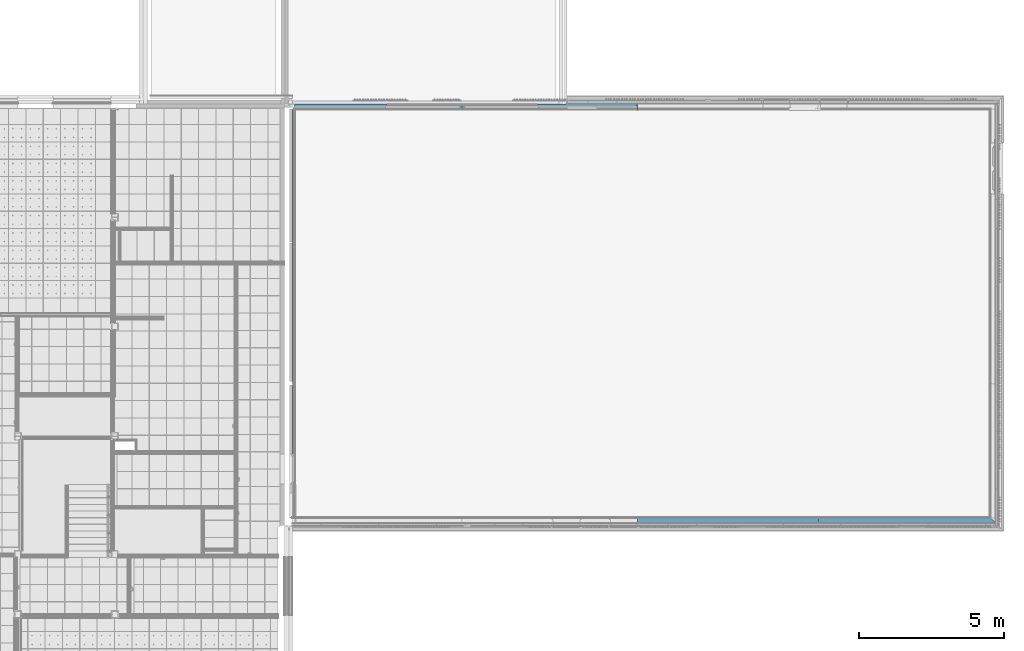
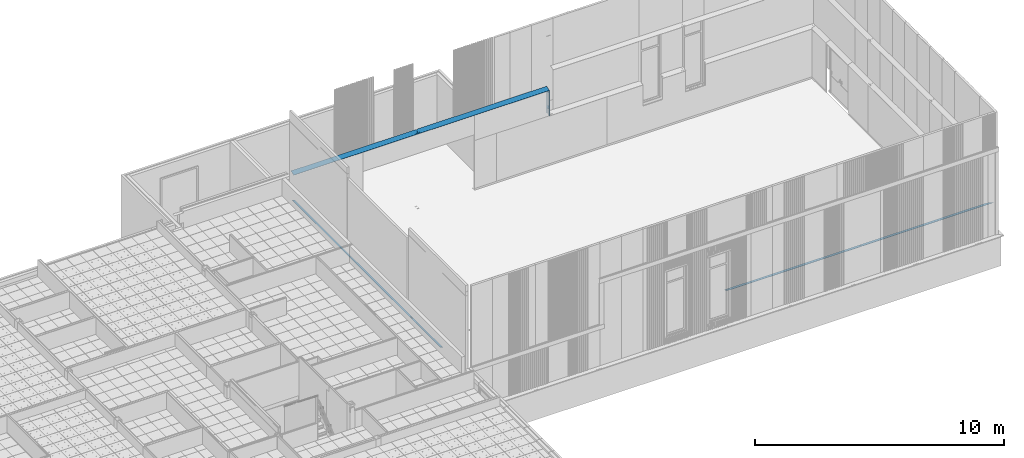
# One storey, part 39 of 338: 4 beams.
"""IFC2X3 building model written with IfcOpenShell, lengths in millimetres."""

import ifcopenshell
import ifcopenshell.guid

model = None  # the IFC model being written
_history = None  # IfcOwnerHistory: only IFC2X3 demands one
_inside = {}  # id of a spatial element -> (the spatial element, [elements in it])
_under = {}  # id of a project, library or spatial element -> (it, [spatial elements below it])
_declared = {}  # id of a project -> (the project, [libraries it declares])
_typed = {}  # id of a type object -> (the type object, [elements of that type])
_made_of = {}  # id of a material, layer set ... -> (it, [elements and type objects made of it])


def new_model(schema):
    """Start an empty IFC model of exactly this schema.

    Asked for "IFC4X3", IfcOpenShell would pick the latest addendum, in which some entities
    have other attributes; the version numbers below select the first issue.
    IFC2X3 requires an IfcOwnerHistory on every rooted entity: one is made here for all.
    """
    global model, _history
    if schema == "IFC4X3":
        model = ifcopenshell.file(schema_version=(4, 3, 0, 0))
    else:
        model = ifcopenshell.file(schema=schema)
    _inside.clear()
    _under.clear()
    _declared.clear()
    _typed.clear()
    _made_of.clear()
    _history = None
    if model.schema == "IFC2X3":
        org = make("IfcOrganization", Name="unknown")
        user = make(
            "IfcPersonAndOrganization",
            ThePerson=make("IfcPerson", FamilyName="unknown"),
            TheOrganization=org,
        )
        app = make(
            "IfcApplication",
            ApplicationDeveloper=org,
            Version="unknown",
            ApplicationFullName="unknown",
            ApplicationIdentifier="unknown",
        )
        _history = make(
            "IfcOwnerHistory",
            OwningUser=user,
            OwningApplication=app,
            ChangeAction="ADDED",
            CreationDate=0,
        )
    return model


def make(cls, **values):
    """One entity of the class cls with the attributes given. An attribute that is None is left unset."""
    return model.create_entity(
        cls, **{name: value for name, value in values.items() if value is not None}
    )


def entity(cls, *values):
    """Any entity or typed value of the class cls, its attributes in the order of the schema. None: left unset."""
    e = model.create_entity(cls)
    for i, value in enumerate(values):
        if value is not None:
            e[i] = value
    return e


def rooted(cls, **values):
    """An entity with a GlobalId (a new one), such as an element, a storey or a relation."""
    return make(cls, GlobalId=ifcopenshell.guid.new(), OwnerHistory=_history, **values)


def si_unit(unit_type, name, prefix=None):
    """IfcSIUnit, for example si_unit("LENGTHUNIT", "METRE", prefix="MILLI")."""
    return make("IfcSIUnit", UnitType=unit_type, Prefix=prefix, Name=name)


def converted_unit(unit_type, name, factor, base, dimensions=None, offset=None):
    """IfcConversionBasedUnit, such as the inch: factor (a typed value) times the base unit."""
    return make(
        "IfcConversionBasedUnit"
        if offset is None
        else "IfcConversionBasedUnitWithOffset",
        ConversionOffset=offset,
        Dimensions=None
        if dimensions is None
        else entity("IfcDimensionalExponents", *dimensions),
        UnitType=unit_type,
        Name=name,
        ConversionFactor=make(
            "IfcMeasureWithUnit", ValueComponent=factor, UnitComponent=base
        ),
    )


def derived_unit(unit_type, elements):
    """IfcDerivedUnit: a product of units, each with its exponent."""
    return make(
        "IfcDerivedUnit",
        Elements=[
            make("IfcDerivedUnitElement", Unit=unit, Exponent=power)
            for unit, power in elements
        ],
        UnitType=unit_type,
    )


def money_unit(currency):
    """IfcMonetaryUnit."""
    return make("IfcMonetaryUnit", Currency=currency)


def assignment(units):
    """IfcUnitAssignment: the units of a project."""
    return None if units is None else make("IfcUnitAssignment", Units=units)


def point(xyz):
    """IfcCartesianPoint."""
    return None if xyz is None else make("IfcCartesianPoint", Coordinates=xyz)


def direction(xyz):
    """IfcDirection."""
    return None if xyz is None else make("IfcDirection", DirectionRatios=xyz)


def frame(location, z_axis=None, x_axis=None):
    """IfcAxis2Placement3D, a coordinate frame: its origin and axes. An axis left out is left unset."""
    return make(
        "IfcAxis2Placement3D",
        Location=point(location),
        Axis=direction(z_axis),
        RefDirection=direction(x_axis),
    )


def origin_with_axes():
    """The frame at (0, 0, 0) with the z axis (0, 0, 1) and the x axis (1, 0, 0) written out."""
    return frame((0.0, 0.0, 0.0), z_axis=(0.0, 0.0, 1.0), x_axis=(1.0, 0.0, 0.0))


def place(relative_to, where):
    """IfcLocalPlacement: puts the frame where relative to a parent placement (None: the world)."""
    return make(
        "IfcLocalPlacement", PlacementRelTo=relative_to, RelativePlacement=where
    )


def context(
    kind, dimensions, precision=None, world=None, true_north=None, identifier=None
):
    """IfcGeometricRepresentationContext, for example the 3D "Model" context."""
    return make(
        "IfcGeometricRepresentationContext",
        ContextIdentifier=identifier,
        ContextType=kind,
        CoordinateSpaceDimension=dimensions,
        Precision=precision,
        WorldCoordinateSystem=world,
        TrueNorth=true_north,
    )


def subcontext(parent, identifier, kind, view, scale=None):
    """IfcGeometricRepresentationSubContext, for example "Body" below "Model"."""
    return make(
        "IfcGeometricRepresentationSubContext",
        ContextIdentifier=identifier,
        ContextType=kind,
        ParentContext=parent,
        TargetScale=scale,
        TargetView=view,
    )


def project(units=None, contexts=None):
    """IfcProject with its units and contexts."""
    return rooted(
        "IfcProject",
        Name="project",
        RepresentationContexts=contexts,
        UnitsInContext=assignment(units),
    )


def spatial(cls, under=None, at=None, **own):
    """A site, building, storey or space (cls), placed at a placement, below another one or the project."""
    s = rooted(cls, ObjectPlacement=at, **own)
    if under is not None:
        _under.setdefault(under.id(), (under, []))[1].append(s)
    return s


def faces_of(points, faces, orient=None, outer=None):
    """IfcFace entities. A face is a list of loops; a loop is a list of indices into points, from 0.

    orient and outer hold one flag for each loop. By default every Orientation is true, the
    first loop of a face is its IfcFaceOuterBound and the others are IfcFaceBound.
    """
    made = []
    for i, loops in enumerate(faces):
        bounds = []
        for j, loop in enumerate(loops):
            is_outer = j == 0 if outer is None else outer[i][j]
            bounds.append(
                make(
                    "IfcFaceOuterBound" if is_outer else "IfcFaceBound",
                    Bound=make("IfcPolyLoop", Polygon=[points[k] for k in loop]),
                    Orientation=True if orient is None else orient[i][j],
                )
            )
        made.append(make("IfcFace", Bounds=bounds))
    return made


def faceted_brep(points, faces, orient=None, outer=None, voids=None):
    """IfcFacetedBrep: a solid bounded by flat faces; with voids (closed shells), ...WithVoids."""
    shared = [point(p) for p in points]
    hull = make("IfcClosedShell", CfsFaces=faces_of(shared, faces, orient, outer))
    if voids is None:
        return make("IfcFacetedBrep", Outer=hull)
    return make(
        "IfcFacetedBrepWithVoids",
        Outer=hull,
        Voids=[
            make(cls, CfsFaces=faces_of(shared, fs, o, b)) for cls, fs, o, b in voids
        ],
    )


def shape(context_of_items, identifier, shape_type, items):
    """IfcShapeRepresentation: the items that make up one representation, for example the "Body"."""
    return make(
        "IfcShapeRepresentation",
        ContextOfItems=context_of_items,
        RepresentationIdentifier=identifier,
        RepresentationType=shape_type,
        Items=items,
    )


def material(Name=None, Category=None):
    """IfcMaterial."""
    return make("IfcMaterial", Name=Name, Category=Category)


def made_of(thing, what):
    """Note that an element or type object is made of a material, layer set ...; save() writes the relation."""
    if what is not None:
        _made_of.setdefault(what.id(), (what, []))[1].append(thing)
    return thing


def type_object(cls, material=None, **own):
    """A type object (cls), such as IfcWallType, which elements share."""
    return made_of(rooted(cls, **own), material)


def element(
    cls,
    number,
    at=None,
    inside=None,
    cuts=None,
    type_object=None,
    material=None,
    context=None,
    identifier="Body",
    shape_type=None,
    held_by="IfcProductDefinitionShape",
    body=None,
    shapes=None,
    **own,
):
    """One element of the class cls, such as IfcWall. Its Tag is "e" and its number.

    at: its placement. inside: the storey or other place that contains it. cuts: it is an
    opening in that element (IfcRelVoidsElement). A single representation is given by context,
    identifier, shape_type and body (its items); several are given by shapes. held_by: the class
    of the entity that holds the representations. save() writes the other relations.
    """
    e = rooted(cls, Tag="e%d" % number, ObjectPlacement=at, **own)
    if body is not None:
        shapes = [shape(context, identifier, shape_type, body)]
    if shapes is not None:
        e.Representation = make(held_by, Representations=shapes)
    if inside is not None:
        _inside.setdefault(inside.id(), (inside, []))[1].append(e)
    if cuts is not None:
        rooted(
            "IfcRelVoidsElement", RelatingBuildingElement=cuts, RelatedOpeningElement=e
        )
    if type_object is not None:
        _typed.setdefault(type_object.id(), (type_object, []))[1].append(e)
    return made_of(e, material)


def aggregate(whole, parts):
    """IfcRelAggregates: a whole, such as a stair, and the parts it consists of."""
    return rooted("IfcRelAggregates", RelatingObject=whole, RelatedObjects=parts)


def save(model, path):
    """Write the relations noted so far, then the file.

    IfcRelAggregates (storeys below a building ...), IfcRelContainedInSpatialStructure (elements
    in a storey), IfcRelDefinesByType, IfcRelAssociatesMaterial and IfcRelDeclares: one each for
    every whole, place, type object, material and project.
    """
    for whole, parts in _under.values():
        aggregate(whole, parts)
    for where, things in _inside.values():
        rooted(
            "IfcRelContainedInSpatialStructure",
            RelatedElements=things,
            RelatingStructure=where,
        )
    for kind, things in _typed.values():
        rooted("IfcRelDefinesByType", RelatedObjects=things, RelatingType=kind)
    for what, things in _made_of.values():
        rooted("IfcRelAssociatesMaterial", RelatedObjects=things, RelatingMaterial=what)
    for by, libraries in _declared.values():
        rooted("IfcRelDeclares", RelatingContext=by, RelatedDefinitions=libraries)
    model.write(path)


model = new_model("IFC2X3")

# Units and contexts
model_context = context("Model", 3, precision=0.01, world=origin_with_axes(), true_north=direction((0.0, 1.0)))
plan_context = context("Plan", 3, precision=0.01, world=origin_with_axes(), true_north=direction((0.0, 1.0)))
body_context = subcontext(model_context, "Body", "Model", "MODEL_VIEW")
ifc_project = project(units=[si_unit("LENGTHUNIT", "METRE", prefix="MILLI"), si_unit("AREAUNIT", "SQUARE_METRE"), si_unit("VOLUMEUNIT", "CUBIC_METRE"), converted_unit("PLANEANGLEUNIT", "DEGREE", entity("IfcPlaneAngleMeasure", 0.0174532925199), si_unit("PLANEANGLEUNIT", "RADIAN"), dimensions=[0, 0, 0, 0, 0, 0, 0]), money_unit("EUR"), converted_unit("TIMEUNIT", "Year", entity("IfcTimeMeasure", 31556926.0), si_unit("TIMEUNIT", "SECOND"), dimensions=[0, 0, 1, 0, 0, 0, 0]), si_unit("MASSUNIT", "GRAM", prefix="KILO"), si_unit("THERMODYNAMICTEMPERATUREUNIT", "DEGREE_CELSIUS"), si_unit("LUMINOUSINTENSITYUNIT", "LUMEN"), si_unit("ENERGYUNIT", "JOULE", prefix="MEGA"), derived_unit("THERMALCONDUCTANCEUNIT", [(si_unit("POWERUNIT", "WATT"), 1), (si_unit("LENGTHUNIT", "METRE"), -1), (si_unit("THERMODYNAMICTEMPERATUREUNIT", "KELVIN"), -1)]), derived_unit("SPECIFICHEATCAPACITYUNIT", [(si_unit("ENERGYUNIT", "JOULE"), 1), (si_unit("MASSUNIT", "GRAM", prefix="KILO"), -1), (si_unit("THERMODYNAMICTEMPERATUREUNIT", "KELVIN"), -1)]), derived_unit("MASSDENSITYUNIT", [(si_unit("MASSUNIT", "GRAM", prefix="KILO"), 1), (si_unit("VOLUMEUNIT", "CUBIC_METRE"), -1)])], contexts=[model_context, plan_context])

# Site, building, storey
site_placement = place(None, origin_with_axes())
site = spatial("IfcSite", under=ifc_project, at=site_placement, Name="Fortuinstraat Woensdrecht", CompositionType="ELEMENT")
building_placement = place(site_placement, origin_with_axes())
building = spatial("IfcBuilding", under=site, at=building_placement, Name="IKC Fortuna", CompositionType="ELEMENT")
storey_placement = place(building_placement, origin_with_axes())
storey = spatial("IfcBuildingStorey", under=building, at=storey_placement, Name="00 begane grond", CompositionType="ELEMENT", Elevation=0.0)

# Beams
ifc_material = material(Name="Hout - Multiplex")
beam_type_1 = type_object("IfcBeamType", Name="Hout - Multiplex 233 x 12", PredefinedType="BEAM")
beam_1_placement = place(storey_placement, frame((59433.4270571, 20996.2966282, 2516.10771999), z_axis=(0.0, 0.0, 1.0), x_axis=(0.0, 1.0, 0.0)))
element("IfcBeam", 1, at=beam_1_placement, inside=storey, type_object=beam_type_1, material=ifc_material, Name="28_Balk_UNP203", ObjectType="BEAM", context=body_context, shape_type="Brep", body=[
    faceted_brep([(11.5096189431, 12310.4999999, 8.58097456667), (16.9999999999, 12305.0096189, 6.58263928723), (24.4999999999, 12302.9999999, 3.85286253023), (146.5, 12302.9999999, -40.5515060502), (154.0, 12305.0096189, -43.2812828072), (159.490381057, 12310.4999999, -45.2796180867), (161.5, 12317.9999999, -46.0110595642), (161.5, 12389.9999999, -46.0110595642), (9.49999999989, 12389.9999999, 9.31241604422), (9.49999999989, 12317.9999999, 9.31241604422), (16.9999999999, 12305.0096189, -6.18749398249), (11.5096189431, 12310.4999999, -4.18915870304), (24.4999999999, 12302.9999999, -8.91727073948), (146.5, 12302.9999999, -53.32163932), (154.0, 12305.0096189, -56.051416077), (159.490381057, 12310.4999999, -58.0497513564), (161.5, 12317.9999999, -58.781192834), (161.5, 12389.9999999, -58.781192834), (9.49999999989, 12389.9999999, -3.45771722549), (9.49999999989, 12317.9999999, -3.45771722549)], [[[0, 1, 2, 3, 4, 5, 6, 7, 8, 9]], [[10, 1, 0, 11]], [[12, 2, 1, 10]], [[13, 3, 2, 12]], [[14, 4, 3, 13]], [[15, 5, 4, 14]], [[16, 6, 5, 15]], [[17, 7, 6, 16]], [[17, 18, 8, 7]], [[19, 9, 8, 18]], [[11, 0, 9, 19]], [[11, 19, 18, 17, 16, 15, 14, 13, 12, 10]]]),
    faceted_brep([(161.5, 161.496242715, -46.0110595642), (93.0037572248, 92.9999999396, -21.080466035), (93.0037572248, 92.9999999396, -33.8505993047), (161.5, 161.496242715, -58.781192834), (11.5096189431, 100.49999994, 8.58097456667), (16.9999999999, 95.0096188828, 6.58263928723), (24.4999999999, 92.9999999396, 3.85286253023), (161.5, 179.99999994, -46.0110595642), (171.0, 179.99999994, -49.4687767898), (171.0, 170.996242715, -49.4687767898), (222.605421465, 222.60166418, -68.2516141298), (222.605421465, 12389.9999999, -68.2516141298), (171.0, 12389.9999999, -49.4687767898), (171.0, 12209.9999999, -49.4687767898), (161.5, 12209.9999999, -46.0110595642), (161.5, 12281.9999999, -46.0110595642), (159.490381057, 12289.4999999, -45.2796180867), (154.0, 12294.990381, -43.2812828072), (146.5, 12296.9999999, -40.5515060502), (24.4999999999, 12296.9999999, 3.85286253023), (16.9999999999, 12294.990381, 6.58263928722), (11.5096189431, 12289.4999999, 8.58097456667), (9.49999999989, 12281.9999999, 9.31241604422), (9.49999999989, 12209.9999999, 9.31241604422), (4.10424171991, 12209.9999999, 11.2763114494), (4.10424171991, 6239.99999994, 11.2763114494), (9.49999999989, 6239.99999994, 9.31241604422), (9.49999999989, 6167.99999994, 9.31241604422), (11.5096189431, 6160.49999994, 8.58097456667), (16.9999999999, 6155.00961888, 6.58263928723), (24.4999999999, 6152.99999994, 3.85286253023), (146.5, 6152.99999994, -40.5515060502), (154.0, 6155.00961888, -43.2812828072), (159.490381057, 6160.49999994, -45.2796180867), (161.5, 6167.99999994, -46.0110595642), (161.5, 6239.99999994, -46.0110595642), (171.0, 6239.99999994, -49.4687767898), (171.0, 6059.99999994, -49.4687767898), (161.5, 6059.99999994, -46.0110595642), (161.5, 6131.99999994, -46.0110595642), (159.490381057, 6139.49999994, -45.2796180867), (154.0, 6144.990381, -43.2812828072), (146.5, 6146.99999994, -40.5515060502), (24.4999999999, 6146.99999994, 3.85286253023), (16.9999999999, 6144.990381, 6.58263928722), (11.5096189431, 6139.49999994, 8.58097456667), (9.49999999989, 6131.99999994, 9.31241604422), (9.49999999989, 6059.99999994, 9.31241604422), (4.10424171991, 6059.99999994, 11.2763114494), (4.10424171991, 3730.31119187, 11.2763114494), (6.00000002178, 3730.9546269, 10.5863118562), (6.00000002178, 3648.91497923, 10.5863118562), (4.10424171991, 3648.2715442, 11.2763114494), (4.10424171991, 2591.72845563, 11.2763114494), (6.00000002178, 2591.0850206, 10.5863118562), (6.00000002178, 2509.04537294, 10.5863118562), (4.10424171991, 2509.68880797, 11.2763114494), (4.10424171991, 179.99999994, 11.2763114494), (9.49999999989, 179.99999994, 9.31241604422), (9.49999999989, 107.99999994, 9.31241604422), (24.4999999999, 92.9999999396, -8.91727073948), (9.49999999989, 107.99999994, -3.45771722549), (9.49999999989, 179.99999994, -3.45771722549), (-1.06581410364e-10, 179.99999994, 0.0), (2.1778134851e-08, 2499.17347742, 0.0), (6.00000002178, 2497.13703101, -2.18382141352), (6.00000002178, 2579.17667868, -2.18382141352), (2.1778134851e-08, 2581.21312509, 0.0), (2.1778134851e-08, 3658.78687474, 0.0), (6.00000002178, 3660.82332116, -2.18382141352), (6.00000002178, 3742.86296882, -2.18382141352), (2.1778134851e-08, 3740.82652241, 0.0), (-1.06581410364e-10, 6059.99999994, 0.0), (9.49999999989, 6059.99999994, -3.45771722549), (9.49999999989, 6131.99999994, -3.45771722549), (11.5096189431, 6139.49999994, -4.18915870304), (16.9999999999, 6144.990381, -6.18749398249), (24.4999999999, 6146.99999994, -8.91727073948), (146.5, 6146.99999994, -53.32163932), (154.0, 6144.990381, -56.051416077), (159.490381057, 6139.49999994, -58.0497513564), (161.5, 6131.99999994, -58.781192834), (161.5, 6059.99999994, -58.781192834), (171.0, 6059.99999994, -62.2389100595), (171.0, 6239.99999994, -62.2389100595), (161.5, 6239.99999994, -58.781192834), (161.5, 6167.99999994, -58.781192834), (159.490381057, 6160.49999994, -58.0497513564), (154.0, 6155.00961888, -56.051416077), (146.5, 6152.99999994, -53.32163932), (24.4999999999, 6152.99999994, -8.91727073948), (16.9999999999, 6155.00961888, -6.18749398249), (11.5096189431, 6160.49999994, -4.18915870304), (9.49999999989, 6167.99999994, -3.45771722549), (9.49999999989, 6239.99999994, -3.45771722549), (-1.06581410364e-10, 6239.99999994, 0.0), (-1.06581410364e-10, 12209.9999999, 0.0), (9.49999999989, 12209.9999999, -3.45771722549), (9.49999999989, 12281.9999999, -3.45771722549), (11.5096189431, 12289.4999999, -4.18915870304), (16.9999999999, 12294.990381, -6.18749398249), (24.4999999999, 12296.9999999, -8.91727073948), (146.5, 12296.9999999, -53.32163932), (154.0, 12294.990381, -56.051416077), (159.490381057, 12289.4999999, -58.0497513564), (161.5, 12281.9999999, -58.781192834), (161.5, 12209.9999999, -58.781192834), (171.0, 12209.9999999, -62.2389100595), (171.0, 12389.9999999, -62.2389100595), (218.501179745, 12389.9999999, -79.5279255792), (218.501179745, 218.49742246, -79.5279255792), (171.0, 170.996242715, -62.2389100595), (171.0, 179.99999994, -62.2389100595), (161.5, 179.99999994, -58.781192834), (16.9999999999, 95.0096188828, -6.18749398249), (11.5096189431, 100.49999994, -4.18915870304)], [[[0, 1, 2, 3]], [[4, 5, 6, 1, 0, 7, 8, 9, 10, 11, 12, 13, 14, 15, 16, 17, 18, 19, 20, 21, 22, 23, 24, 25, 26, 27, 28, 29, 30, 31, 32, 33, 34, 35, 36, 37, 38, 39, 40, 41, 42, 43, 44, 45, 46, 47, 48, 49, 50, 51, 52, 53, 54, 55, 56, 57, 58, 59]], [[60, 2, 1, 6]], [[61, 62, 63, 64, 65, 66, 67, 68, 69, 70, 71, 72, 73, 74, 75, 76, 77, 78, 79, 80, 81, 82, 83, 84, 85, 86, 87, 88, 89, 90, 91, 92, 93, 94, 95, 96, 97, 98, 99, 100, 101, 102, 103, 104, 105, 106, 107, 108, 109, 110, 111, 112, 113, 3, 2, 60, 114, 115]], [[113, 7, 0, 3]], [[114, 5, 4, 115]], [[60, 6, 5, 114]], [[112, 8, 7, 113]], [[112, 111, 9, 8]], [[10, 9, 111, 110]], [[109, 11, 10, 110]], [[109, 108, 12, 11]], [[107, 13, 12, 108]], [[106, 14, 13, 107]], [[105, 15, 14, 106]], [[104, 16, 15, 105]], [[103, 17, 16, 104]], [[102, 18, 17, 103]], [[101, 19, 18, 102]], [[100, 20, 19, 101]], [[99, 21, 20, 100]], [[98, 22, 21, 99]], [[97, 23, 22, 98]], [[96, 24, 23, 97]], [[96, 95, 25, 24]], [[94, 26, 25, 95]], [[93, 27, 26, 94]], [[92, 28, 27, 93]], [[91, 29, 28, 92]], [[90, 30, 29, 91]], [[89, 31, 30, 90]], [[88, 32, 31, 89]], [[87, 33, 32, 88]], [[86, 34, 33, 87]], [[85, 35, 34, 86]], [[84, 36, 35, 85]], [[83, 37, 36, 84]], [[82, 38, 37, 83]], [[81, 39, 38, 82]], [[80, 40, 39, 81]], [[79, 41, 40, 80]], [[78, 42, 41, 79]], [[77, 43, 42, 78]], [[76, 44, 43, 77]], [[75, 45, 44, 76]], [[74, 46, 45, 75]], [[73, 47, 46, 74]], [[72, 48, 47, 73]], [[49, 48, 72, 71]], [[71, 70, 50, 49]], [[70, 69, 51, 50]], [[51, 69, 68, 52]], [[67, 53, 52, 68]], [[66, 54, 53, 67]], [[65, 55, 54, 66]], [[64, 56, 55, 65]], [[64, 63, 57, 56]], [[62, 58, 57, 63]], [[61, 59, 58, 62]], [[115, 4, 59, 61]]]),
    faceted_brep([(16.9999999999, 84.9903809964, 6.58263928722), (11.5096189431, 79.4999999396, 8.58097456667), (9.49999999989, 71.9999999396, 9.31241604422), (9.49999999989, 9.4962427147, 9.31241604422), (87.0037572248, 86.9999999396, -18.8966446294), (24.4999999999, 86.9999999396, 3.85286253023), (11.5096189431, 79.4999999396, -4.18915870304), (16.9999999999, 84.9903809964, -6.18749398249), (9.49999999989, 71.9999999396, -3.45771722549), (9.49999999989, 9.4962427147, -3.45771722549), (87.0037572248, 86.9999999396, -31.6667778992), (24.4999999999, 86.9999999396, -8.91727073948)], [[[0, 1, 2, 3, 4, 5]], [[6, 1, 0, 7]], [[8, 2, 1, 6]], [[8, 9, 3, 2]], [[9, 10, 4, 3]], [[11, 5, 4, 10]], [[7, 0, 5, 11]], [[7, 11, 10, 9, 8, 6]]]),
])
beam_2_placement = place(storey_placement, frame((35179.4270571, 35496.2832774, 3766.10771999), z_axis=(0.0, 0.0, 1.0), x_axis=(0.0, -1.0, 0.0)))
element("IfcBeam", 2, at=beam_2_placement, inside=storey, type_object=beam_type_1, material=ifc_material, Name="28_Balk_UNP203", ObjectType="BEAM", context=body_context, shape_type="Brep", body=[
    faceted_brep([(11.4962681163, 5814.5, -4.18429939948), (9.48664917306, 5822.0, -3.45285792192), (9.48664917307, 5894.0, -3.45285792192), (0.0, 5894.0, 0.0), (0.0, 11864.0000427, 0.0), (210.962707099, 11863.9975576, -76.7841459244), (210.962707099, 11851.9975427, -76.7841459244), (216.776093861, 11851.9975427, -78.9000456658), (216.776093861, 11863.9975576, -78.9000456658), (218.501179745, 11864.0000427, -79.5279255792), (218.501179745, 0.0, -79.5279255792), (0.0, 0.0, 0.0), (0.0, 5714.0, 0.0), (9.48664917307, 5714.0, -3.45285792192), (9.48664917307, 5786.0, -3.45285792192), (11.4962681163, 5793.5, -4.18429939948), (16.9866491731, 5798.99038106, -6.18263467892), (24.4866491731, 5801.0, -8.91241143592), (146.486649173, 5801.0, -53.3167800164), (153.986649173, 5798.99038106, -56.0465567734), (159.47703023, 5793.5, -58.0448920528), (161.486649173, 5786.0, -58.7763335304), (161.486649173, 5714.0, -58.7763335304), (170.986649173, 5714.0, -62.2340507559), (170.986649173, 5894.0, -62.2340507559), (161.486649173, 5894.0, -58.7763335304), (161.486649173, 5822.0, -58.7763335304), (159.47703023, 5814.5, -58.0448920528), (153.986649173, 5809.00961894, -56.0465567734), (146.486649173, 5807.0, -53.3167800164), (24.4866491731, 5807.0, -8.91241143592), (16.9866491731, 5809.00961894, -6.18263467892), (11.4962681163, 5814.5, 8.58583387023), (9.48664917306, 5822.0, 9.31727534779), (9.48664917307, 5894.0, 9.31727534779), (4.10424171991, 5894.0, 11.2763114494), (4.10424171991, 11864.0000427, 11.2763114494), (222.605421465, 11864.0000427, -68.2516141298), (216.776093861, 11863.9975576, -77.8092028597), (216.776093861, 11851.9975427, -77.8092028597), (222.605421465, 0.0, -68.2516141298), (4.10424171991, 0.0, 11.2763114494), (4.10424171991, 5714.0, 11.2763114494), (9.48664917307, 5714.0, 9.31727534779), (9.48664917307, 5786.0, 9.31727534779), (11.4962681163, 5793.5, 8.58583387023), (16.9866491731, 5798.99038106, 6.58749859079), (24.4866491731, 5801.0, 3.85772183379), (146.486649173, 5801.0, -40.5466467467), (153.986649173, 5798.99038106, -43.2764235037), (159.47703023, 5793.5, -45.2747587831), (161.486649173, 5786.0, -46.0062002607), (161.486649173, 5714.0, -46.0062002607), (170.986649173, 5714.0, -49.4639174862), (170.986649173, 5894.0, -49.4639174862), (161.486649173, 5894.0, -46.0062002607), (161.486649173, 5822.0, -46.0062002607), (159.47703023, 5814.5, -45.2747587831), (153.986649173, 5809.00961894, -43.2764235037), (146.486649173, 5807.0, -40.5466467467), (24.4866491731, 5807.0, 3.85772183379), (16.9866491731, 5809.00961894, 6.58749859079)], [[[0, 1, 2, 3, 4, 5, 6, 7, 8, 9, 10, 11, 12, 13, 14, 15, 16, 17, 18, 19, 20, 21, 22, 23, 24, 25, 26, 27, 28, 29, 30, 31]], [[0, 32, 33, 1]], [[1, 33, 34, 2]], [[34, 35, 3, 2]], [[4, 3, 35, 36]], [[37, 9, 8, 38, 5, 4, 36]], [[38, 39, 6, 5]], [[6, 39, 7]], [[7, 39, 38, 8]], [[37, 40, 10, 9]], [[10, 40, 41, 11]], [[41, 42, 12, 11]], [[43, 13, 12, 42]], [[13, 43, 44, 14]], [[14, 44, 45, 15]], [[15, 45, 46, 16]], [[16, 46, 47, 17]], [[17, 47, 48, 18]], [[18, 48, 49, 19]], [[19, 49, 50, 20]], [[20, 50, 51, 21]], [[21, 51, 52, 22]], [[22, 52, 53, 23]], [[23, 53, 54, 24]], [[24, 54, 55, 25]], [[25, 55, 56, 26]], [[26, 56, 57, 27]], [[27, 57, 58, 28]], [[28, 58, 59, 29]], [[29, 59, 60, 30]], [[30, 60, 61, 31]], [[31, 61, 32, 0]], [[44, 43, 42, 41, 40, 37, 36, 35, 34, 33, 32, 61, 60, 59, 58, 57, 56, 55, 54, 53, 52, 51, 50, 49, 48, 47, 46, 45]]]),
])
beam_type_2 = type_object("IfcBeamType", Name="Hout - Multiplex 120 x 12", PredefinedType="BEAM")
beam_3_placement = place(storey_placement, frame((35113.4270841, 23384.5135484, 2478.0975514), z_axis=(0.0, 0.0, 1.0), x_axis=(1.0, 0.0, 0.0)))
element("IfcBeam", 3, at=beam_3_placement, inside=storey, type_object=beam_type_2, material=ifc_material, Name="28_Balk_UNP204", ObjectType="BEAM", context=body_context, shape_type="Brep", body=[
    faceted_brep([(49.9903540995, 7322.28307988, -5.42486762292), (51.9999730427, 7329.78307988, -6.15630910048), (51.9999730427, 7401.78307988, -6.15630910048), (61.4999730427, 7401.78307988, -9.614026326), (61.4999730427, 7221.78307988, -9.614026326), (51.9999730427, 7221.78307988, -6.15630910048), (51.9999730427, 7293.78307988, -6.15630910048), (49.9903540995, 7301.28307988, -5.42486762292), (44.4999730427, 7306.77346094, -3.42653234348), (36.9999730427, 7308.78307988, -0.696755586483), (4.10424171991, 7308.78307988, 11.2763114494), (4.10424171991, 2414.78307988, 11.2763114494), (36.9999730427, 2414.78307988, -0.696755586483), (44.4999730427, 2416.79269883, -3.42653234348), (49.9903540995, 2422.28307988, -5.42486762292), (51.9999730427, 2429.78307988, -6.15630910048), (51.9999730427, 2501.78307988, -6.15630910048), (61.4999730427, 2501.78307988, -9.614026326), (61.4999730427, 2321.78307988, -9.614026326), (51.9999730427, 2321.78307988, -6.15630910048), (51.9999730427, 2393.78307988, -6.15630910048), (49.9903540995, 2401.28307988, -5.42486762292), (44.4999730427, 2406.77346094, -3.42653234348), (36.9999730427, 2408.78307988, -0.696755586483), (4.10424171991, 2408.78307988, 11.2763114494), (4.10424171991, 0.0, 11.2763114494), (116.867356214, 0.0, -29.7661057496), (116.867356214, 11907.7830799, -29.7661057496), (4.10424171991, 11907.7830799, 11.2763114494), (4.10424171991, 7314.78307988, 11.2763114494), (36.9999730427, 7314.78307988, -0.696755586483), (44.4999730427, 7316.79269883, -3.42653234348), (51.9999730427, 7329.78307988, -18.9264423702), (49.9903540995, 7322.28307988, -18.1950008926), (51.9999730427, 7401.78307988, -18.9264423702), (61.4999730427, 7401.78307988, -22.3841595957), (61.4999730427, 7221.78307988, -22.3841595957), (51.9999730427, 7221.78307988, -18.9264423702), (51.9999730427, 7293.78307988, -18.9264423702), (49.9903540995, 7301.28307988, -18.1950008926), (44.4999730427, 7306.77346094, -16.1966656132), (36.9999730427, 7308.78307988, -13.4668888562), (0.0, 7308.78307988, 0.0), (0.0, 2414.78307988, 0.0), (36.9999730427, 2414.78307988, -13.4668888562), (44.4999730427, 2416.79269883, -16.1966656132), (49.9903540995, 2422.28307988, -18.1950008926), (51.9999730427, 2429.78307988, -18.9264423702), (51.9999730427, 2501.78307988, -18.9264423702), (61.4999730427, 2501.78307988, -22.3841595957), (61.4999730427, 2321.78307988, -22.3841595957), (51.9999730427, 2321.78307988, -18.9264423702), (51.9999730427, 2393.78307988, -18.9264423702), (49.9903540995, 2401.28307988, -18.1950008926), (44.4999730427, 2406.77346094, -16.1966656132), (36.9999730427, 2408.78307988, -13.4668888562), (0.0, 2408.78307988, 0.0), (0.0, 0.0, 0.0), (112.763114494, 0.0, -41.0424171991), (112.763114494, 11907.7830799, -41.0424171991), (0.0, 11907.7830799, 0.0), (0.0, 7314.78307988, 0.0), (36.9999730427, 7314.78307988, -13.4668888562), (44.4999730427, 7316.79269883, -16.1966656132)], [[[0, 1, 2, 3, 4, 5, 6, 7, 8, 9, 10, 11, 12, 13, 14, 15, 16, 17, 18, 19, 20, 21, 22, 23, 24, 25, 26, 27, 28, 29, 30, 31]], [[32, 1, 0, 33]], [[34, 2, 1, 32]], [[35, 3, 2, 34]], [[36, 4, 3, 35]], [[37, 5, 4, 36]], [[38, 6, 5, 37]], [[39, 7, 6, 38]], [[40, 8, 7, 39]], [[41, 9, 8, 40]], [[42, 10, 9, 41]], [[11, 10, 42, 43]], [[44, 12, 11, 43]], [[45, 13, 12, 44]], [[46, 14, 13, 45]], [[47, 15, 14, 46]], [[48, 16, 15, 47]], [[49, 17, 16, 48]], [[50, 18, 17, 49]], [[51, 19, 18, 50]], [[52, 20, 19, 51]], [[53, 21, 20, 52]], [[54, 22, 21, 53]], [[55, 23, 22, 54]], [[56, 24, 23, 55]], [[25, 24, 56, 57]], [[26, 25, 57, 58]], [[26, 58, 59, 27]], [[27, 59, 60, 28]], [[60, 61, 29, 28]], [[62, 30, 29, 61]], [[63, 31, 30, 62]], [[33, 0, 31, 63]], [[63, 62, 61, 60, 59, 58, 57, 56, 55, 54, 53, 52, 51, 50, 49, 48, 47, 46, 45, 44, 43, 42, 41, 40, 39, 38, 37, 36, 35, 34, 32, 33]]]),
])
beam_type_3 = type_object("IfcBeamType", Name="Hout - Multiplex 12 x 1229", PredefinedType="BEAM")
beam_4_placement = place(storey_placement, frame((47031.4245998, 35279.5071836, 2440.0), z_axis=(0.0, 0.0, 1.0), x_axis=(1.0, 0.0, 0.0)))
element("IfcBeam", 4, at=beam_4_placement, inside=storey, type_object=beam_type_3, material=ifc_material, Name="28_Balk_UNP204", ObjectType="BEAM", context=body_context, shape_type="Brep", body=[
    faceted_brep([(12.002457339, 76.7894446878, 1160.0), (12.002457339, 216.78944471, 1160.0), (12.0000148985, 216.78944471, 1286.52434537), (12.0000148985, 0.0, 1248.29851713), (12.0000148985, 0.0, 0.0), (12.002457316, 45.7894446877, 8.0739145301), (12.002457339, 45.7894447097, 298.5), (12.002457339, 117.78944471, 298.5), (12.002457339, 125.28944471, 300.509618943), (12.002457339, 130.779825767, 306.0), (12.002457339, 132.78944471, 313.5), (12.002457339, 132.78944471, 435.5), (12.002457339, 130.779825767, 443.0), (12.002457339, 125.28944471, 448.490381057), (12.002457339, 117.78944471, 450.5), (12.002457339, 45.7894447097, 450.5), (12.002457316, 45.7894446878, 1100.0), (12.002457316, 76.7894446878, 1100.0), (0.0, 76.7894446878, 1160.0), (0.0, 216.78944471, 1160.0), (0.0, 216.78944471, 1286.52434537), (0.0, 0.0, 1248.29851713), (0.0, 0.0, 0.0), (0.0, 45.7894446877, 8.0739145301), (0.0, 45.7894447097, 298.5), (0.0, 117.78944471, 298.5), (0.0, 125.28944471, 300.509618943), (0.0, 130.779825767, 306.0), (0.0, 132.78944471, 313.5), (0.0, 132.78944471, 435.5), (0.0, 130.779825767, 443.0), (0.0, 125.28944471, 448.490381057), (0.0, 117.78944471, 450.5), (0.0, 45.7894447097, 450.5), (0.0, 45.7894446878, 1100.0), (0.0, 76.7894446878, 1100.0)], [[[0, 1, 2, 3, 4, 5, 6, 7, 8, 9, 10, 11, 12, 13, 14, 15, 16, 17]], [[18, 19, 1, 0]], [[19, 20, 2, 1]], [[3, 2, 20, 21]], [[22, 4, 3, 21]], [[22, 23, 5, 4]], [[5, 23, 24, 6]], [[6, 24, 25, 7]], [[7, 25, 26, 8]], [[8, 26, 27, 9]], [[9, 27, 28, 10]], [[10, 28, 29, 11]], [[11, 29, 30, 12]], [[12, 30, 31, 13]], [[13, 31, 32, 14]], [[14, 32, 33, 15]], [[33, 34, 16, 15]], [[34, 35, 17, 16]], [[0, 17, 35, 18]], [[21, 20, 19, 18, 35, 34, 33, 32, 31, 30, 29, 28, 27, 26, 25, 24, 23, 22]]]),
    faceted_brep([(12.002457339, 153.78944471, 298.5), (12.002457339, 216.789444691, 298.5), (12.002457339, 216.789444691, 450.5), (12.002457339, 153.78944471, 450.5), (12.002457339, 146.28944471, 448.490381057), (12.002457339, 140.799063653, 443.0), (12.002457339, 138.78944471, 435.5), (12.002457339, 138.78944471, 313.5), (12.002457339, 140.799063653, 306.0), (12.002457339, 146.28944471, 300.509618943), (0.0, 153.78944471, 298.5), (0.0, 216.789444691, 298.5), (0.0, 216.789444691, 450.5), (0.0, 153.78944471, 450.5), (0.0, 146.28944471, 448.490381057), (0.0, 140.799063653, 443.0), (0.0, 138.78944471, 435.5), (0.0, 138.78944471, 313.5), (0.0, 140.799063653, 306.0), (0.0, 146.28944471, 300.509618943)], [[[0, 1, 2, 3, 4, 5, 6, 7, 8, 9]], [[10, 11, 1, 0]], [[11, 12, 2, 1]], [[3, 2, 12, 13]], [[13, 14, 4, 3]], [[14, 15, 5, 4]], [[15, 16, 6, 5]], [[16, 17, 7, 6]], [[17, 18, 8, 7]], [[18, 19, 9, 8]], [[19, 10, 0, 9]], [[13, 12, 11, 10, 19, 18, 17, 16, 15, 14]]]),
    faceted_brep([(12.002457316, 145.789444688, 25.7066126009), (12.0001271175, 216.789444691, 38.2258282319), (12.0024573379, 216.789444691, 289.0), (12.002457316, 145.789444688, 289.0), (0.0, 145.789444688, 25.7066126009), (0.0, 216.789444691, 38.2258282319), (0.0, 216.789444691, 289.0), (0.0, 145.789444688, 289.0)], [[[0, 1, 2, 3]], [[4, 5, 1, 0]], [[5, 6, 2, 1]], [[3, 2, 6, 7]], [[4, 0, 3, 7]], [[7, 6, 5, 4]]]),
    faceted_brep([(12.002457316, 145.789444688, 460.0), (12.0024573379, 216.789444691, 460.0), (12.002457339, 216.78944471, 1100.0), (12.002457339, 213.527757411, 1100.0), (12.002457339, 210.136317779, 1101.32601889), (12.002457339, 208.543723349, 1104.60074511), (12.002457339, 205.403716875, 1143.79850978), (12.002457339, 202.218528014, 1150.34796223), (12.002457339, 195.435648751, 1153.0), (12.002457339, 98.1432406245, 1153.0), (12.002457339, 91.3603613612, 1150.34796223), (12.002457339, 88.1751725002, 1143.79850978), (12.002457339, 85.0351660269, 1104.60074511), (12.002457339, 83.4425715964, 1101.32601889), (12.002457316, 80.0511319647, 1100.0), (12.002457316, 145.789444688, 1100.0), (0.0, 145.789444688, 460.0), (0.0, 216.789444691, 460.0), (0.0, 216.78944471, 1100.0), (0.0, 213.527757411, 1100.0), (0.0, 210.136317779, 1101.32601889), (0.0, 208.543723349, 1104.60074511), (0.0, 205.403716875, 1143.79850978), (0.0, 202.218528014, 1150.34796223), (0.0, 195.435648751, 1153.0), (0.0, 98.1432406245, 1153.0), (0.0, 91.3603613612, 1150.34796223), (0.0, 88.1751725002, 1143.79850978), (0.0, 85.0351660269, 1104.60074511), (0.0, 83.4425715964, 1101.32601889), (0.0, 80.0511319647, 1100.0), (0.0, 145.789444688, 1100.0)], [[[0, 1, 2, 3, 4, 5, 6, 7, 8, 9, 10, 11, 12, 13, 14, 15]], [[16, 17, 1, 0]], [[18, 2, 1, 17]], [[3, 2, 18, 19]], [[19, 20, 4, 3]], [[20, 21, 5, 4]], [[21, 22, 6, 5]], [[22, 23, 7, 6]], [[23, 24, 8, 7]], [[24, 25, 9, 8]], [[25, 26, 10, 9]], [[26, 27, 11, 10]], [[27, 28, 12, 11]], [[28, 29, 13, 12]], [[29, 30, 14, 13]], [[31, 15, 14, 30]], [[16, 0, 15, 31]], [[18, 17, 16, 31, 30, 29, 28, 27, 26, 25, 24, 23, 22, 21, 20, 19]]]),
])

save(model, "model.ifc")
